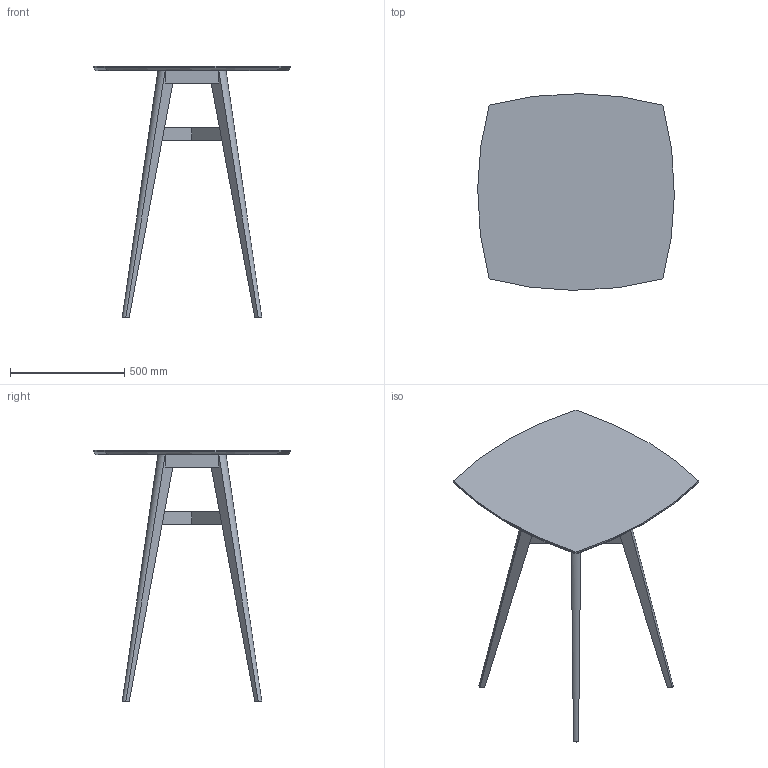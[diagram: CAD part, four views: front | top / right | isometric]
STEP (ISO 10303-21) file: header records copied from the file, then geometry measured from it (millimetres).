
FILE_DESCRIPTION(/* description */ (''),/* implementation_level */ '2;1');
FILE_NAME(/* name */ 'WITTYW~1',/* time_stamp */ '2017-09-28T22:36:53+02:00',/* author */ (''),/* organization */ (''),/* preprocessor_version */ 'ST-DEVELOPER v15',/* originating_system */ '',/* authorisation */ '');
FILE_SCHEMA (('CONFIG_CONTROL_DESIGN'));
Length unit declared in the file: millimetre
Products named in the file (1): Document
Bounding box: 859.84 x 859.84 x 1099 mm (x, y, z)
Volume: 22353472.6 mm3; surface area: 2376172.4 mm2
Topology: 12 solids, 12 shells, 92 faces, 187 edges, 122 vertices
Faces by surface type: plane 52, bspline 40
Entity records: 2436 total; most frequent: CARTESIAN_POINT 1017, ORIENTED_EDGE 368, EDGE_CURVE 184, B_SPLINE_CURVE_WITH_KNOTS 167, VERTEX_POINT 116, ADVANCED_FACE 92, FACE_OUTER_BOUND 92, EDGE_LOOP 92
